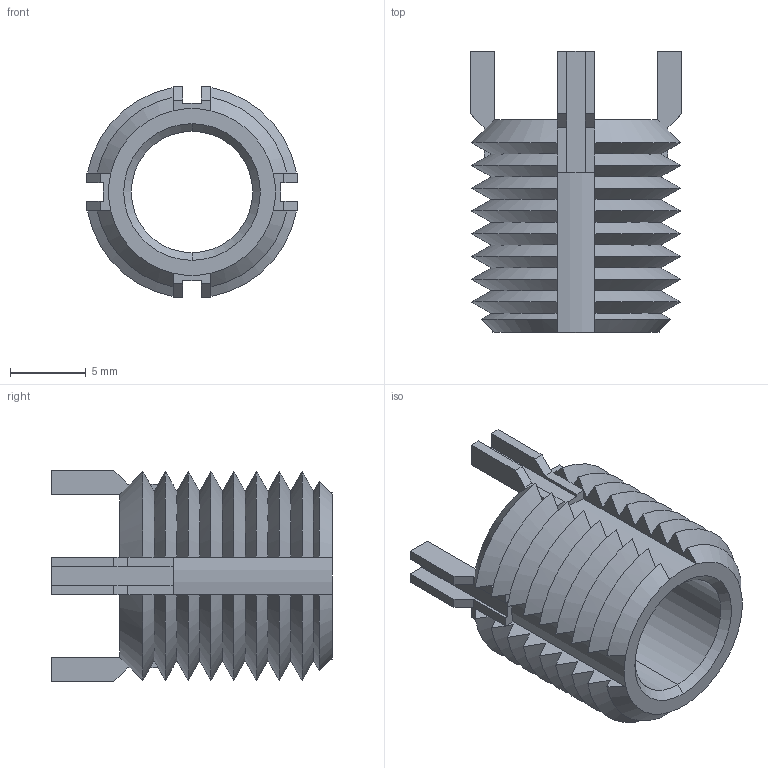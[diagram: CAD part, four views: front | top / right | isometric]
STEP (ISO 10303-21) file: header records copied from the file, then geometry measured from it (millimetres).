
FILE_DESCRIPTION (( 'STEP AP203' ), '1' );
FILE_NAME ('22002.W5661.step', '2020-01-04T21:34:20', ( '' ), ( '' ), 'SwSTEP 2.0', 'SolidWorks 2017', '' );
FILE_SCHEMA (( 'CONFIG_CONTROL_DESIGN' ));
Length unit declared in the file: millimetre
Products named in the file (1): 22002.W5661
Bounding box: 13.91 x 18.5 x 13.91 mm (x, y, z)
Volume: 997.6 mm3; surface area: 1645.1 mm2
Topology: 1 solids, 1 shells, 180 faces, 474 edges, 296 vertices
Faces by surface type: plane 98, cone 76, cylinder 6
Entity records: 5715 total; most frequent: CARTESIAN_POINT 1503, ORIENTED_EDGE 948, DIRECTION 744, EDGE_CURVE 474, VERTEX_POINT 296, AXIS2_PLACEMENT_3D 273, LINE 198, VECTOR 198
